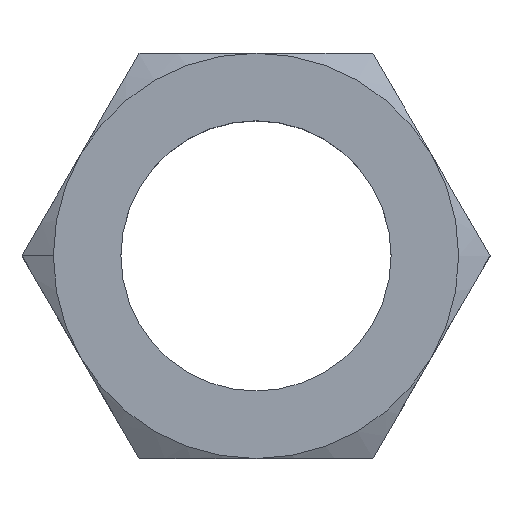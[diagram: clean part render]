
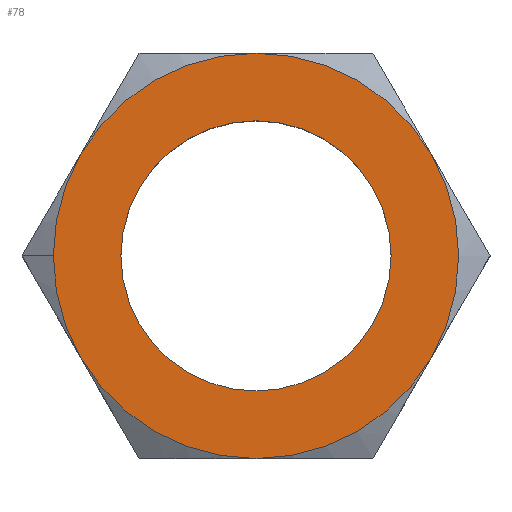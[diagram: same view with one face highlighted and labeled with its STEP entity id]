
A CAD part, top view. The second image highlights one B-rep face of the part: STEP entity #78.
In plain terms, the highlighted planar face has unit normal (0, 0, 1).
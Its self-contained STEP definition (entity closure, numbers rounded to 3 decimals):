
#1 = DIRECTION ( 'NONE',  ( 0., 0., 1. ) ) ;
#2 = CARTESIAN_POINT ( 'NONE',  ( 0., 0., 4. ) ) ;
#3 = AXIS2_PLACEMENT_3D ( 'NONE', #2, #1, #453 ) ;
#4 = CIRCLE ( 'NONE', #3, 12. ) ;
#5 = DIRECTION ( 'NONE',  ( 1., 0., 0. ) ) ;
#6 = DIRECTION ( 'NONE',  ( 0., 0., 1. ) ) ;
#7 = CARTESIAN_POINT ( 'NONE',  ( 0., 0., 4. ) ) ;
#8 = AXIS2_PLACEMENT_3D ( 'NONE', #7, #6, #5 ) ;
#9 = CIRCLE ( 'NONE', #8, 12. ) ;
#22 = DIRECTION ( 'NONE',  ( 1., 0., 0. ) ) ;
#23 = DIRECTION ( 'NONE',  ( 0., 0., 1. ) ) ;
#24 = CARTESIAN_POINT ( 'NONE',  ( 0., 0., 4. ) ) ;
#25 = AXIS2_PLACEMENT_3D ( 'NONE', #24, #23, #22 ) ;
#26 = CIRCLE ( 'NONE', #25, 12. ) ;
#34 = EDGE_CURVE ( 'NONE', #68, #89, #26, .T. ) ;
#45 = ORIENTED_EDGE ( 'NONE', *, *, #46, .T. ) ;
#46 = EDGE_CURVE ( 'NONE', #89, #132, #9, .T. ) ;
#47 = ORIENTED_EDGE ( 'NONE', *, *, #48, .T. ) ;
#48 = EDGE_CURVE ( 'NONE', #132, #214, #4, .T. ) ;
#49 = ORIENTED_EDGE ( 'NONE', *, *, #50, .T. ) ;
#50 = EDGE_CURVE ( 'NONE', #214, #230, #451, .T. ) ;
#51 = ORIENTED_EDGE ( 'NONE', *, *, #52, .T. ) ;
#52 = EDGE_CURVE ( 'NONE', #230, #115, #458, .T. ) ;
#53 = ORIENTED_EDGE ( 'NONE', *, *, #114, .T. ) ;
#54 = ORIENTED_EDGE ( 'NONE', *, *, #55, .T. ) ;
#55 = EDGE_CURVE ( 'NONE', #116, #68, #296, .T. ) ;
#68 = VERTEX_POINT ( 'NONE', #271 ) ;
#78 = ADVANCED_FACE ( 'NONE', ( #394, #393 ), #392, .T. ) ;
#79 = EDGE_LOOP ( 'NONE', ( #80, #81 ) ) ;
#80 = ORIENTED_EDGE ( 'NONE', *, *, #139, .F. ) ;
#81 = ORIENTED_EDGE ( 'NONE', *, *, #82, .F. ) ;
#82 = EDGE_CURVE ( 'NONE', #141, #140, #386, .T. ) ;
#83 = EDGE_LOOP ( 'NONE', ( #45, #47, #49, #51, #53, #54, #151 ) ) ;
#89 = VERTEX_POINT ( 'NONE', #426 ) ;
#114 = EDGE_CURVE ( 'NONE', #115, #116, #358, .T. ) ;
#115 = VERTEX_POINT ( 'NONE', #353 ) ;
#116 = VERTEX_POINT ( 'NONE', #352 ) ;
#132 = VERTEX_POINT ( 'NONE', #310 ) ;
#139 = EDGE_CURVE ( 'NONE', #140, #141, #680, .T. ) ;
#140 = VERTEX_POINT ( 'NONE', #672 ) ;
#141 = VERTEX_POINT ( 'NONE', #671 ) ;
#151 = ORIENTED_EDGE ( 'NONE', *, *, #34, .T. ) ;
#214 = VERTEX_POINT ( 'NONE', #599 ) ;
#230 = VERTEX_POINT ( 'NONE', #686 ) ;
#271 = CARTESIAN_POINT ( 'NONE',  ( 0., -12., 4. ) ) ;
#293 = DIRECTION ( 'NONE',  ( 1., 0., 0. ) ) ;
#294 = DIRECTION ( 'NONE',  ( 0., 0., 1. ) ) ;
#295 = AXIS2_PLACEMENT_3D ( 'NONE', #454, #294, #293 ) ;
#296 = CIRCLE ( 'NONE', #295, 12. ) ;
#310 = CARTESIAN_POINT ( 'NONE',  ( 10.392, 6., 4. ) ) ;
#352 = CARTESIAN_POINT ( 'NONE',  ( -10.392, -6., 4. ) ) ;
#353 = CARTESIAN_POINT ( 'NONE',  ( -12., 0., 4. ) ) ;
#354 = DIRECTION ( 'NONE',  ( 1., 0., 0. ) ) ;
#355 = DIRECTION ( 'NONE',  ( 0., 0., 1. ) ) ;
#356 = CARTESIAN_POINT ( 'NONE',  ( 0., 0., 4. ) ) ;
#357 = AXIS2_PLACEMENT_3D ( 'NONE', #356, #355, #354 ) ;
#358 = CIRCLE ( 'NONE', #357, 12. ) ;
#383 = DIRECTION ( 'NONE',  ( 1., 0., 0. ) ) ;
#384 = DIRECTION ( 'NONE',  ( 0., 0., 1. ) ) ;
#385 = AXIS2_PLACEMENT_3D ( 'NONE', #390, #384, #383 ) ;
#386 = CIRCLE ( 'NONE', #385, 8. ) ;
#387 = DIRECTION ( 'NONE',  ( 1., 0., 0. ) ) ;
#388 = DIRECTION ( 'NONE',  ( 0., 0., 1. ) ) ;
#389 = CARTESIAN_POINT ( 'NONE',  ( 6.928, 12., 4. ) ) ;
#390 = CARTESIAN_POINT ( 'NONE',  ( 0., 0., 4. ) ) ;
#391 = AXIS2_PLACEMENT_3D ( 'NONE', #389, #388, #387 ) ;
#392 = PLANE ( 'NONE',  #391 ) ;
#393 = FACE_OUTER_BOUND ( 'NONE', #83, .T. ) ;
#394 = FACE_BOUND ( 'NONE', #79, .T. ) ;
#412 = DIRECTION ( 'NONE',  ( 1., 0., 0. ) ) ;
#413 = DIRECTION ( 'NONE',  ( 0., 0., 1. ) ) ;
#414 = CARTESIAN_POINT ( 'NONE',  ( 0., 0., 4. ) ) ;
#426 = CARTESIAN_POINT ( 'NONE',  ( 10.392, -6., 4. ) ) ;
#450 = AXIS2_PLACEMENT_3D ( 'NONE', #414, #413, #412 ) ;
#451 = CIRCLE ( 'NONE', #450, 12. ) ;
#452 = CARTESIAN_POINT ( 'NONE',  ( 0., 0., 4. ) ) ;
#453 = DIRECTION ( 'NONE',  ( 1., 0., 0. ) ) ;
#454 = CARTESIAN_POINT ( 'NONE',  ( 0., 0., 4. ) ) ;
#455 = DIRECTION ( 'NONE',  ( 1., 0., 0. ) ) ;
#456 = DIRECTION ( 'NONE',  ( 0., 0., 1. ) ) ;
#457 = AXIS2_PLACEMENT_3D ( 'NONE', #452, #456, #455 ) ;
#458 = CIRCLE ( 'NONE', #457, 12. ) ;
#599 = CARTESIAN_POINT ( 'NONE',  ( 0., 12., 4. ) ) ;
#671 = CARTESIAN_POINT ( 'NONE',  ( 8., 0., 4. ) ) ;
#672 = CARTESIAN_POINT ( 'NONE',  ( -8., 0., 4. ) ) ;
#673 = DIRECTION ( 'NONE',  ( 1., 0., 0. ) ) ;
#674 = DIRECTION ( 'NONE',  ( 0., 0., 1. ) ) ;
#675 = CARTESIAN_POINT ( 'NONE',  ( 0., 0., 4. ) ) ;
#676 = AXIS2_PLACEMENT_3D ( 'NONE', #675, #674, #673 ) ;
#680 = CIRCLE ( 'NONE', #676, 8. ) ;
#686 = CARTESIAN_POINT ( 'NONE',  ( -10.392, 6., 4. ) ) ;
